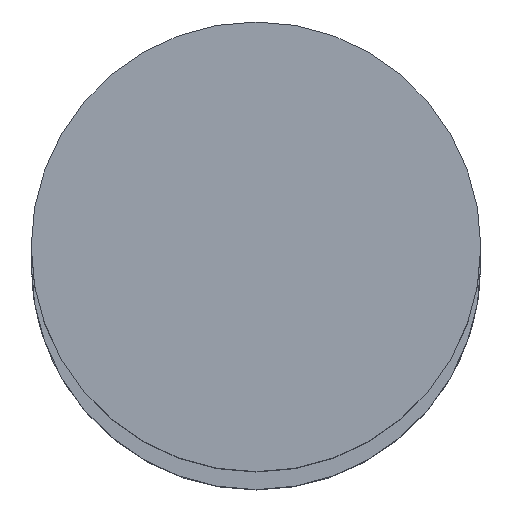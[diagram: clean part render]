
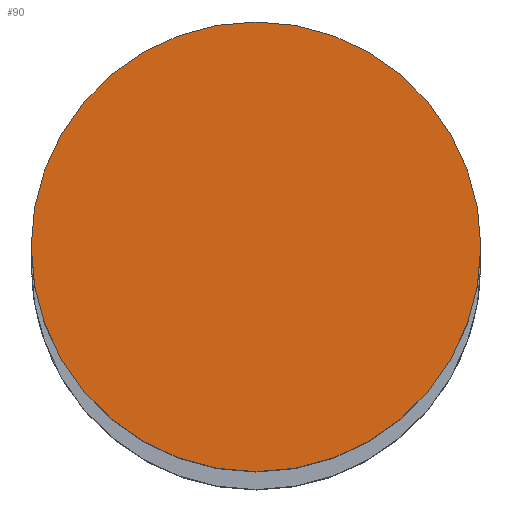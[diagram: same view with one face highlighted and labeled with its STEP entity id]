
A CAD part, top view. The second image highlights one B-rep face of the part: STEP entity #90.
In plain terms, the highlighted planar face has unit normal (0, 0, 1).
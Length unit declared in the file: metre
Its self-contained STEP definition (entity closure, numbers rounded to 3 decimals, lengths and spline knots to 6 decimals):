
#90=ADVANCED_FACE('25:217',(#177),#178,.T.);
#177=FACE_OUTER_BOUND('',#265,.T.);
#178=PLANE('',#266);
#265=EDGE_LOOP('',(#422,#423));
#266=AXIS2_PLACEMENT_3D('',#424,#425,#426);
#422=ORIENTED_EDGE('',*,*,#544,.F.);
#423=ORIENTED_EDGE('',*,*,#529,.F.);
#424=CARTESIAN_POINT('',(0.0,0.0,3.374));
#425=DIRECTION('',(0.0,0.0,1.0));
#426=DIRECTION('',(1.0,0.0,0.0));
#529=EDGE_CURVE('',#636,#638,#639,.F.);
#544=EDGE_CURVE('',#638,#636,#659,.F.);
#636=VERTEX_POINT('',#771);
#638=VERTEX_POINT('',#774);
#639=CIRCLE('',#775,0.0155);
#659=CIRCLE('',#798,0.0155);
#771=CARTESIAN_POINT('',(0.015408,0.000095,3.374));
#774=CARTESIAN_POINT('',(-0.015592,0.000095,3.374));
#775=AXIS2_PLACEMENT_3D('',#892,#893,#894);
#798=AXIS2_PLACEMENT_3D('',#916,#917,#918);
#892=CARTESIAN_POINT('',(-0.000092,0.000095,3.374));
#893=DIRECTION('',(0.0,0.0,1.0));
#894=DIRECTION('',(1.0,0.0,0.0));
#916=CARTESIAN_POINT('',(-0.000092,0.000095,3.374));
#917=DIRECTION('',(0.0,0.0,1.0));
#918=DIRECTION('',(1.0,0.0,0.0));
